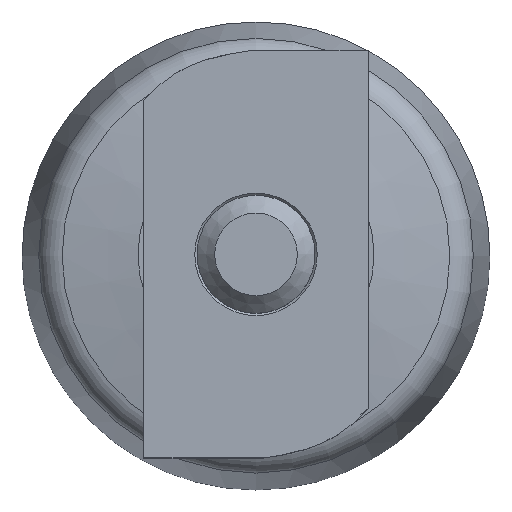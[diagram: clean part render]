
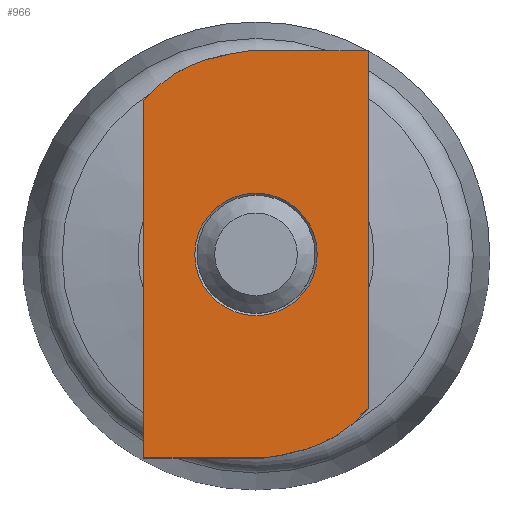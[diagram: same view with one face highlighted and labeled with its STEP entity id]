
A CAD part, top view. The second image highlights one B-rep face of the part: STEP entity #966.
In plain terms, the highlighted planar face has unit normal (0, 0, 1).
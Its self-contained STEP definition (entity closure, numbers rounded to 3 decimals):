
#966=ADVANCED_FACE('',(#3358,#3360),#3362,.T.);
#3358=FACE_BOUND('',#3359,.T.);
#3359=EDGE_LOOP('',(#5386,#5387,#5388,#5389,#5390,#5391));
#3360=FACE_BOUND('',#3361,.T.);
#3361=EDGE_LOOP('',(#5392));
#3362=PLANE('',#3363);
#3363=AXIS2_PLACEMENT_3D('',#3364,#3365,#3366);
#3364=CARTESIAN_POINT('',(0.,0.,92.9));
#3365=DIRECTION('',(0.,0.,1.));
#3366=DIRECTION('',(0.,1.,0.));
#5386=ORIENTED_EDGE('',*,*,#6740,.T.);
#5387=ORIENTED_EDGE('',*,*,#6751,.T.);
#5388=ORIENTED_EDGE('',*,*,#6749,.T.);
#5389=ORIENTED_EDGE('',*,*,#6747,.T.);
#5390=ORIENTED_EDGE('',*,*,#6746,.T.);
#5391=ORIENTED_EDGE('',*,*,#6743,.T.);
#5392=ORIENTED_EDGE('',*,*,#6908,.T.);
#6740=EDGE_CURVE('',#7807,#7808,#7809,.F.);
#6743=EDGE_CURVE('',#7812,#7807,#7813,.T.);
#6746=EDGE_CURVE('',#7815,#7812,#7817,.T.);
#6747=EDGE_CURVE('',#7818,#7815,#7819,.F.);
#6749=EDGE_CURVE('',#7821,#7818,#7822,.T.);
#6751=EDGE_CURVE('',#7808,#7821,#7824,.T.);
#6908=EDGE_CURVE('',#8071,#8071,#8072,.F.);
#7807=VERTEX_POINT('',#10677);
#7808=VERTEX_POINT('',#10678);
#7809=B_SPLINE_CURVE_WITH_KNOTS('',3,
(#10679,#10680,#10681,#10682),
.UNSPECIFIED.,.F.,.F.,
(4,4),
(0.,1.),
.UNSPECIFIED.);
#7812=VERTEX_POINT('',#10689);
#7813=LINE('',#10690,#10691);
#7815=VERTEX_POINT('',#10696);
#7817=LINE('',#10700,#10701);
#7818=VERTEX_POINT('',#10703);
#7819=B_SPLINE_CURVE_WITH_KNOTS('',3,
(#10704,#10705,#10706,#10707),
.UNSPECIFIED.,.F.,.F.,
(4,4),
(0.,1.),
.UNSPECIFIED.);
#7821=VERTEX_POINT('',#10711);
#7822=LINE('',#10712,#10713);
#7824=LINE('',#10718,#10719);
#8071=VERTEX_POINT('',#11739);
#8072=CIRCLE('',#11740,5.188);
#10677=CARTESIAN_POINT('',(0.619,-17.25,92.9));
#10678=CARTESIAN_POINT('',(9.5,-13.04,92.9));
#10679=CARTESIAN_POINT('',(9.5,-13.04,92.9));
#10680=CARTESIAN_POINT('',(6.405,-16.723,92.9));
#10681=CARTESIAN_POINT('',(2.235,-16.956,92.9));
#10682=CARTESIAN_POINT('',(0.619,-17.25,92.9));
#10689=CARTESIAN_POINT('',(-9.5,-17.25,92.9));
#10690=CARTESIAN_POINT('',(-9.5,-17.25,92.9));
#10691=VECTOR('',#10692,1.);
#10692=DIRECTION('',(1.,0.,0.));
#10696=CARTESIAN_POINT('',(-9.5,13.04,92.9));
#10700=CARTESIAN_POINT('',(-9.5,13.04,92.9));
#10701=VECTOR('',#10702,1.);
#10702=DIRECTION('',(0.,-1.,0.));
#10703=CARTESIAN_POINT('',(-0.619,17.25,92.9));
#10704=CARTESIAN_POINT('',(-9.5,13.04,92.9));
#10705=CARTESIAN_POINT('',(-6.405,16.723,92.9));
#10706=CARTESIAN_POINT('',(-2.235,16.956,92.9));
#10707=CARTESIAN_POINT('',(-0.619,17.25,92.9));
#10711=CARTESIAN_POINT('',(9.5,17.25,92.9));
#10712=CARTESIAN_POINT('',(9.5,17.25,92.9));
#10713=VECTOR('',#10714,1.);
#10714=DIRECTION('',(-1.,0.,0.));
#10718=CARTESIAN_POINT('',(9.5,-13.04,92.9));
#10719=VECTOR('',#10720,1.);
#10720=DIRECTION('',(0.,1.,0.));
#11739=CARTESIAN_POINT('',(0.,5.188,92.9));
#11740=AXIS2_PLACEMENT_3D('',#11741,#11742,#11743);
#11741=CARTESIAN_POINT('',(0.,0.,92.9));
#11742=DIRECTION('',(0.,0.,1.));
#11743=DIRECTION('',(0.,1.,0.));
